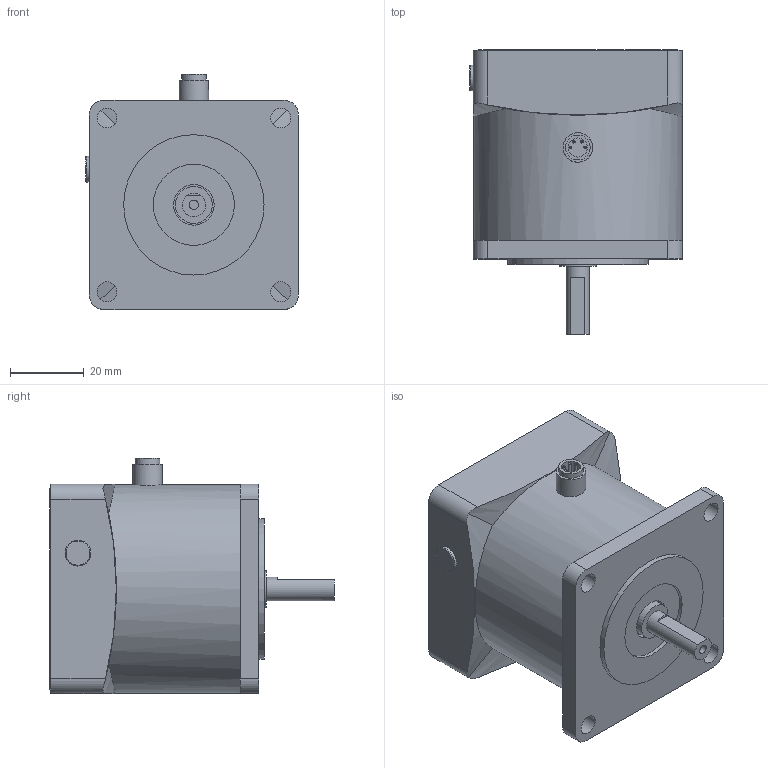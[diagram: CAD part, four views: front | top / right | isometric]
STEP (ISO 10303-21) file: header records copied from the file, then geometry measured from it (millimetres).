
FILE_DESCRIPTION( ( 'Unknown' ), '1' );
FILE_NAME( 'K:/JVL/MAB23x/CAD internet tegninger/MAB 23X-03.stp', 'Unknown', ( 'Unknown' ), ( 'Unknown' ), 'PSStep 11.0', 'Unknown', ' ' );
FILE_SCHEMA( ( 'AUTOMOTIVE_DESIGN { 1 0 10303 214 1 1 1 1 }' ) );
Length unit declared in the file: millimetre
Products named in the file (1): 1
Bounding box: 57.8 x 77.3 x 63.8 mm (x, y, z)
Volume: 153807.8 mm3; surface area: 21807.8 mm2
Topology: 1 solids, 3 shells, 95 faces, 198 edges, 133 vertices
Faces by surface type: plane 45, cylinder 43, bspline 4, torus 3
Full cylindrical faces by diameter (mm): 0.75 x4, 2.459 x1, 4.134 x4, 4.3 x1, 5.2 x1, 5.4 x4, 6.35 x2, 6.7 x1, 7 x1, 8 x1, 10 x2, 11 x1, 22 x1, 23.9 x1, 38.1 x2, 56.6 x1
Entity records: 3452 total; most frequent: CARTESIAN_POINT 798, DIRECTION 404, ORIENTED_EDGE 304, AXIS2_PLACEMENT_3D 178, EDGE_LOOP 162, EDGE_CURVE 152, FACE_OUTER_BOUND 130, VERTEX_POINT 122
